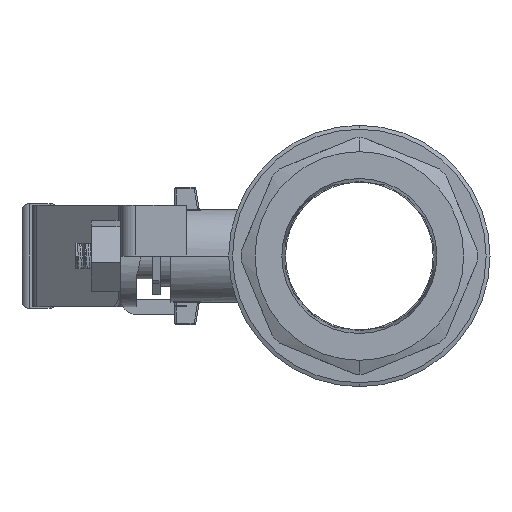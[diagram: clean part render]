
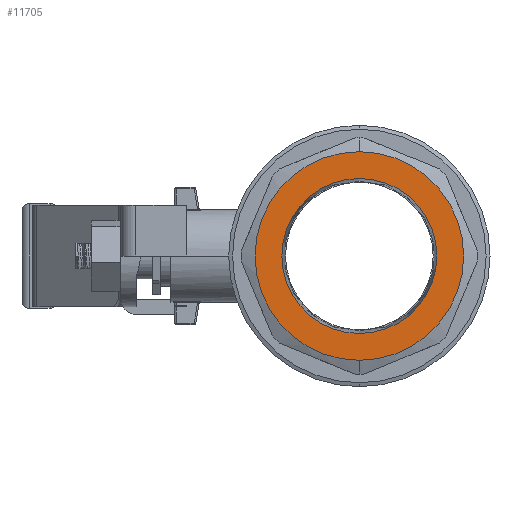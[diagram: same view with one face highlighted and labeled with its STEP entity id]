
A CAD part, left-side view. The second image highlights one B-rep face of the part: STEP entity #11705.
In plain terms, the highlighted planar face has unit normal (-1, 0, 0).
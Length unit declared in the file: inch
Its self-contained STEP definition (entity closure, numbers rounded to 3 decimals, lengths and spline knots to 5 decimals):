
#451 = PLANE ( 'NONE',  #10814 ) ;
#1158 = EDGE_CURVE ( 'NONE', #6416, #13054, #11601, .T. ) ;
#1243 = CARTESIAN_POINT ( 'NONE',  ( -1.40068, 0., 0. ) ) ;
#1429 = ORIENTED_EDGE ( 'NONE', *, *, #1158, .T. ) ;
#1956 = FACE_BOUND ( 'NONE', #13519, .T. ) ;
#2674 = ORIENTED_EDGE ( 'NONE', *, *, #16219, .F. ) ;
#2725 = DIRECTION ( 'NONE',  ( 0., 0., 1. ) ) ;
#3050 = CIRCLE ( 'NONE', #14838, 0.70652 ) ;
#3057 = DIRECTION ( 'NONE',  ( -1., 0., 0. ) ) ;
#3493 = EDGE_CURVE ( 'NONE', #13054, #6416, #3050, .T. ) ;
#3858 = CARTESIAN_POINT ( 'NONE',  ( -1.40068, 0., 0.5249 ) ) ;
#4154 = CARTESIAN_POINT ( 'NONE',  ( -1.40068, 0., 0. ) ) ;
#4240 = DIRECTION ( 'NONE',  ( 0., 0., 1. ) ) ;
#4247 = DIRECTION ( 'NONE',  ( -1., 0., 0. ) ) ;
#4324 = ORIENTED_EDGE ( 'NONE', *, *, #9272, .F. ) ;
#4679 = CARTESIAN_POINT ( 'NONE',  ( -1.40068, 0., 0. ) ) ;
#4977 = VERTEX_POINT ( 'NONE', #8527 ) ;
#5441 = EDGE_LOOP ( 'NONE', ( #15593, #1429 ) ) ;
#6109 = DIRECTION ( 'NONE',  ( 0., 0., 1. ) ) ;
#6410 = FACE_OUTER_BOUND ( 'NONE', #5441, .T. ) ;
#6416 = VERTEX_POINT ( 'NONE', #14238 ) ;
#6839 = AXIS2_PLACEMENT_3D ( 'NONE', #10283, #10280, #10265 ) ;
#8527 = CARTESIAN_POINT ( 'NONE',  ( -1.40068, 0., -0.5249 ) ) ;
#8741 = CIRCLE ( 'NONE', #16546, 0.5249 ) ;
#9272 = EDGE_CURVE ( 'NONE', #12209, #4977, #15911, .T. ) ;
#10003 = CARTESIAN_POINT ( 'NONE',  ( -1.40068, -0.5, 0. ) ) ;
#10265 = DIRECTION ( 'NONE',  ( 0., 0., 1. ) ) ;
#10280 = DIRECTION ( 'NONE',  ( -1., 0., 0. ) ) ;
#10283 = CARTESIAN_POINT ( 'NONE',  ( -1.40068, 0., 0. ) ) ;
#10672 = CARTESIAN_POINT ( 'NONE',  ( -1.40068, 0., -0.70652 ) ) ;
#10814 = AXIS2_PLACEMENT_3D ( 'NONE', #10003, #3057, #12733 ) ;
#11003 = AXIS2_PLACEMENT_3D ( 'NONE', #4154, #4247, #4240 ) ;
#11601 = CIRCLE ( 'NONE', #11003, 0.70652 ) ;
#11705 = ADVANCED_FACE ( 'NONE', ( #1956, #6410 ), #451, .T. ) ;
#12209 = VERTEX_POINT ( 'NONE', #3858 ) ;
#12733 = DIRECTION ( 'NONE',  ( 0., 0., 1. ) ) ;
#13054 = VERTEX_POINT ( 'NONE', #10672 ) ;
#13519 = EDGE_LOOP ( 'NONE', ( #4324, #2674 ) ) ;
#14227 = DIRECTION ( 'NONE',  ( -1., 0., 0. ) ) ;
#14238 = CARTESIAN_POINT ( 'NONE',  ( -1.40068, 0., 0.70652 ) ) ;
#14388 = DIRECTION ( 'NONE',  ( -1., 0., 0. ) ) ;
#14838 = AXIS2_PLACEMENT_3D ( 'NONE', #1243, #14227, #2725 ) ;
#15593 = ORIENTED_EDGE ( 'NONE', *, *, #3493, .T. ) ;
#15911 = CIRCLE ( 'NONE', #6839, 0.5249 ) ;
#16219 = EDGE_CURVE ( 'NONE', #4977, #12209, #8741, .T. ) ;
#16546 = AXIS2_PLACEMENT_3D ( 'NONE', #4679, #14388, #6109 ) ;
